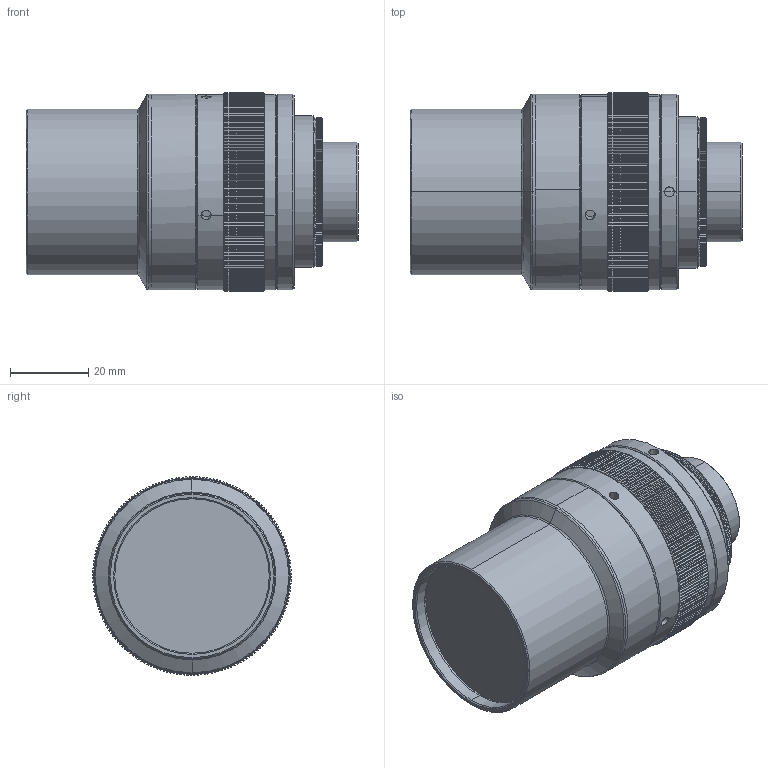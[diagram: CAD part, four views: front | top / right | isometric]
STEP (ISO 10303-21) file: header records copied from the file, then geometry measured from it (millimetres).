
FILE_DESCRIPTION (( 'STEP AP203' ), '1' );
FILE_NAME ('錨璃1.STEP', '2023-03-10T07:24:57', ( '' ), ( '' ), 'SwSTEP 2.0', 'SolidWorks 2017', '' );
FILE_SCHEMA (( 'CONFIG_CONTROL_DESIGN' ));
Length unit declared in the file: millimetre
Products named in the file (1): 錨璃1
Bounding box: 84.93 x 50.8 x 50.8 mm (x, y, z)
Volume: 125763 mm3; surface area: 19876.4 mm2
Topology: 1 solids, 2 shells, 1895 faces, 4895 edges, 3011 vertices
Faces by surface type: cone 750, plane 735, cylinder 403, torus 4, bspline 3
Entity records: 59280 total; most frequent: CARTESIAN_POINT 14974, ORIENTED_EDGE 9790, DIRECTION 8736, EDGE_CURVE 4895, AXIS2_PLACEMENT_3D 3431, VERTEX_POINT 3011, EDGE_LOOP 1908, FACE_OUTER_BOUND 1895
